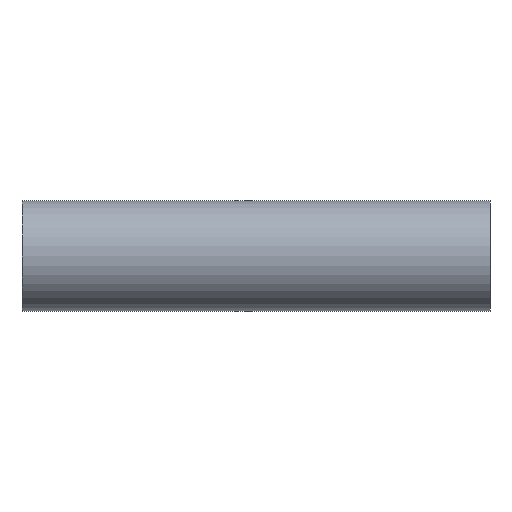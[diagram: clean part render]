
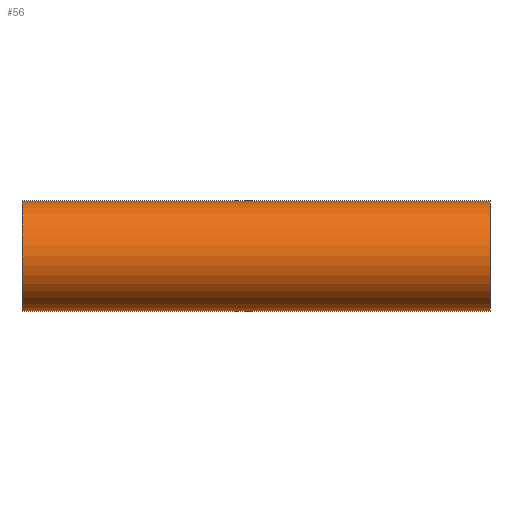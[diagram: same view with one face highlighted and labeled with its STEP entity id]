
A CAD part, front view. The second image highlights one B-rep face of the part: STEP entity #56.
In plain terms, the highlighted cylindrical face has radius 12.7 mm (diameter 25.4 mm), a partial arc.
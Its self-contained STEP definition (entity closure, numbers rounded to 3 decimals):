
#34 = ORIENTED_EDGE ( 'NONE', *, *, #158, .T. ) ;
#37 = EDGE_CURVE ( 'NONE', #354, #340, #428, .T. ) ;
#39 = VERTEX_POINT ( 'NONE', #375 ) ;
#45 = VECTOR ( 'NONE', #255, 1000. ) ;
#56 = ADVANCED_FACE ( 'NONE', ( #219 ), #88, .T. ) ;
#58 = DIRECTION ( 'NONE',  ( 0., 0., -1. ) ) ;
#69 = CIRCLE ( 'NONE', #343, 12.7 ) ;
#73 = ORIENTED_EDGE ( 'NONE', *, *, #319, .T. ) ;
#74 = CIRCLE ( 'NONE', #297, 12.7 ) ;
#88 = CYLINDRICAL_SURFACE ( 'NONE', #108, 12.7 ) ;
#108 = AXIS2_PLACEMENT_3D ( 'NONE', #408, #288, #238 ) ;
#130 = DIRECTION ( 'NONE',  ( 0., 0., -1. ) ) ;
#140 = CARTESIAN_POINT ( 'NONE',  ( -54., 0., 12.7 ) ) ;
#158 = EDGE_CURVE ( 'NONE', #354, #230, #74, .T. ) ;
#162 = DIRECTION ( 'NONE',  ( 1., 0., 0. ) ) ;
#195 = DIRECTION ( 'NONE',  ( -1., 0., 0. ) ) ;
#216 = EDGE_CURVE ( 'NONE', #39, #340, #69, .T. ) ;
#219 = FACE_OUTER_BOUND ( 'NONE', #508, .T. ) ;
#230 = VERTEX_POINT ( 'NONE', #469 ) ;
#238 = DIRECTION ( 'NONE',  ( 0., 0., -1. ) ) ;
#250 = LINE ( 'NONE', #430, #45 ) ;
#255 = DIRECTION ( 'NONE',  ( 1., 0., 0. ) ) ;
#281 = DIRECTION ( 'NONE',  ( 1., 0., 0. ) ) ;
#288 = DIRECTION ( 'NONE',  ( 1., 0., 0. ) ) ;
#297 = AXIS2_PLACEMENT_3D ( 'NONE', #472, #281, #58 ) ;
#319 = EDGE_CURVE ( 'NONE', #230, #39, #250, .T. ) ;
#324 = CARTESIAN_POINT ( 'NONE',  ( 54., 0., 0. ) ) ;
#325 = ORIENTED_EDGE ( 'NONE', *, *, #216, .T. ) ;
#329 = VECTOR ( 'NONE', #162, 1000. ) ;
#340 = VERTEX_POINT ( 'NONE', #407 ) ;
#343 = AXIS2_PLACEMENT_3D ( 'NONE', #324, #195, #130 ) ;
#354 = VERTEX_POINT ( 'NONE', #500 ) ;
#375 = CARTESIAN_POINT ( 'NONE',  ( 54., 0., -12.7 ) ) ;
#407 = CARTESIAN_POINT ( 'NONE',  ( 54., 0., 12.7 ) ) ;
#408 = CARTESIAN_POINT ( 'NONE',  ( -54., 0., 0. ) ) ;
#428 = LINE ( 'NONE', #140, #329 ) ;
#430 = CARTESIAN_POINT ( 'NONE',  ( -54., 0., -12.7 ) ) ;
#444 = ORIENTED_EDGE ( 'NONE', *, *, #37, .F. ) ;
#469 = CARTESIAN_POINT ( 'NONE',  ( -54., 0., -12.7 ) ) ;
#472 = CARTESIAN_POINT ( 'NONE',  ( -54., 0., 0. ) ) ;
#500 = CARTESIAN_POINT ( 'NONE',  ( -54., 0., 12.7 ) ) ;
#508 = EDGE_LOOP ( 'NONE', ( #444, #34, #73, #325 ) ) ;
